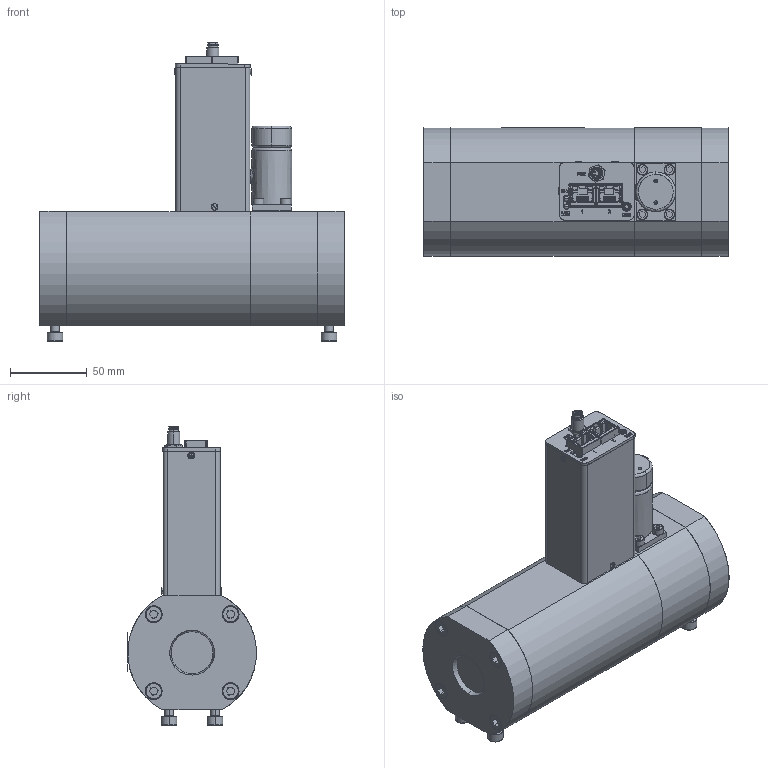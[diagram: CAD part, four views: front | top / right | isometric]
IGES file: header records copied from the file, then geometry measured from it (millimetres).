
Start section: SolidWorks IGES file using analytic representation for surfaces
Global section: file name: G:\Engineering\CAD MODELS FOR SALES\CAD MODEL STORAGE\SLA\SLA5853\IGES\SLA5853-8-2B-3-A-REVB.IGS; native system: SolidWorks 2020; preprocessor: SolidWorks 2020; author: SThen; date: 210820.084223; units: inch
Bounding box: 198.8 x 84.17 x 194.93 mm (x, y, z)
Surface area: 191904 mm2 (no closed solid volume)
Topology: 0 solids, 0 shells, 3600 faces, 30590 edges, 30555 vertices
Faces by surface type: bspline 2684, revolution 916
